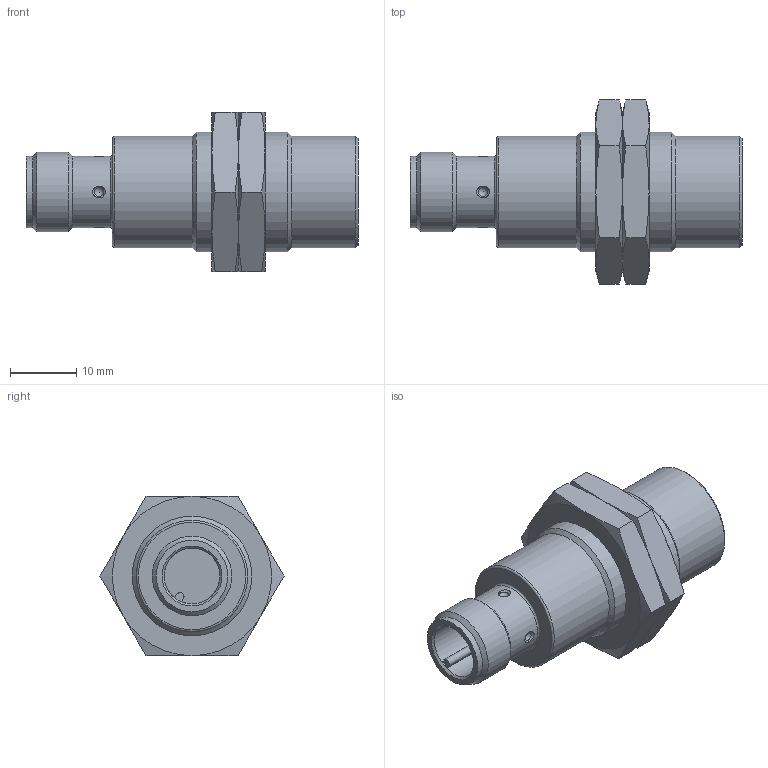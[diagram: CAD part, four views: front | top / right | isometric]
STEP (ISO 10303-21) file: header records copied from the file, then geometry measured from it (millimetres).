
FILE_DESCRIPTION( ( 'STEP AP203' ), ' ' );
FILE_NAME( 'p:/temp/worker_73/3924_3904/app_55_02016051809445721253847192d056f_000000_00_00_000000/format_1/ANT421.stp', '2016-05-18T07:44:58', ( '' ), ( '' ), ' ', 'PARTsolutions', ' ' );
FILE_SCHEMA( ( 'CONFIG_CONTROL_DESIGN' ) );
Length unit declared in the file: millimetre
Products named in the file (3): ANT421; _ANT421_part1; _DTM424_part2
Assembly tree (3 placements, depth 2):
  ANT421
    _ANT421_part1
    _DTM424_part2  x2
Bounding box: 50 x 27.71 x 24 mm (x, y, z)
Volume: 11601.2 mm3; surface area: 5250.1 mm2
Topology: 3 solids, 3 shells, 77 faces, 172 edges, 102 vertices
Faces by surface type: cone 34, plane 23, cylinder 10, torus 6, sphere 4
Full cylindrical faces by diameter (mm): 8.4 x1, 10.773 x2, 12 x1, 16.773 x2, 16.917 x2, 18 x1
Entity records: 1548 total; most frequent: CARTESIAN_POINT 430, DIRECTION 212, ORIENTED_EDGE 166, AXIS2_PLACEMENT_3D 99, EDGE_LOOP 84, EDGE_CURVE 83, FACE_OUTER_BOUND 68, VERTEX_POINT 65
